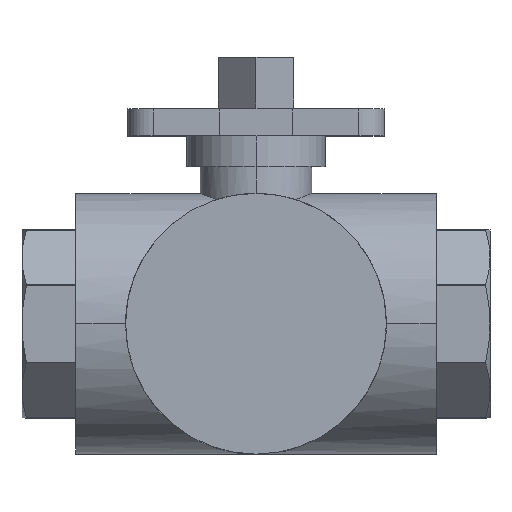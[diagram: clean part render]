
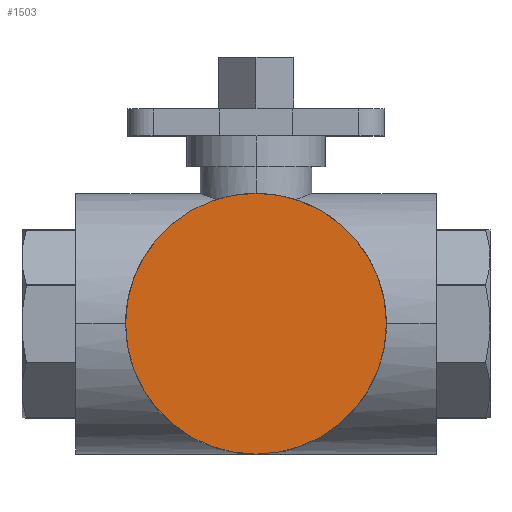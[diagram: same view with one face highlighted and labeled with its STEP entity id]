
A CAD part, top view. The second image highlights one B-rep face of the part: STEP entity #1503.
In plain terms, the highlighted planar face has unit normal (0, 0, 1).
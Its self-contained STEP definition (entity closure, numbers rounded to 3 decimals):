
#97 = CARTESIAN_POINT ( 'NONE',  ( 0., 0., 34. ) ) ;
#101 = PLANE ( 'NONE',  #5106 ) ;
#534 = DIRECTION ( 'NONE',  ( 1., 0., 0. ) ) ;
#616 = DIRECTION ( 'NONE',  ( 0., 0., 1. ) ) ;
#771 = AXIS2_PLACEMENT_3D ( 'NONE', #97, #3053, #534 ) ;
#818 = VERTEX_POINT ( 'NONE', #855 ) ;
#855 = CARTESIAN_POINT ( 'NONE',  ( 34., 0., 34. ) ) ;
#928 = EDGE_CURVE ( 'NONE', #818, #4201, #5074, .T. ) ;
#957 = DIRECTION ( 'NONE',  ( 0., 0., -1. ) ) ;
#1005 = ORIENTED_EDGE ( 'NONE', *, *, #5370, .T. ) ;
#1266 = ORIENTED_EDGE ( 'NONE', *, *, #928, .T. ) ;
#1372 = AXIS2_PLACEMENT_3D ( 'NONE', #3137, #616, #3562 ) ;
#1503 = ADVANCED_FACE ( 'NONE', ( #2008 ), #101, .F. ) ;
#2008 = FACE_OUTER_BOUND ( 'NONE', #3788, .T. ) ;
#3053 = DIRECTION ( 'NONE',  ( 0., 0., 1. ) ) ;
#3137 = CARTESIAN_POINT ( 'NONE',  ( 0., 0., 34. ) ) ;
#3484 = CARTESIAN_POINT ( 'NONE',  ( 0., 34., 34. ) ) ;
#3505 = CIRCLE ( 'NONE', #771, 34. ) ;
#3562 = DIRECTION ( 'NONE',  ( 1., 0., 0. ) ) ;
#3788 = EDGE_LOOP ( 'NONE', ( #1005, #1266 ) ) ;
#3912 = DIRECTION ( 'NONE',  ( -1., 0., 0. ) ) ;
#4201 = VERTEX_POINT ( 'NONE', #4641 ) ;
#4641 = CARTESIAN_POINT ( 'NONE',  ( -34., 0., 34. ) ) ;
#5074 = CIRCLE ( 'NONE', #1372, 34. ) ;
#5106 = AXIS2_PLACEMENT_3D ( 'NONE', #3484, #957, #3912 ) ;
#5370 = EDGE_CURVE ( 'NONE', #4201, #818, #3505, .T. ) ;
